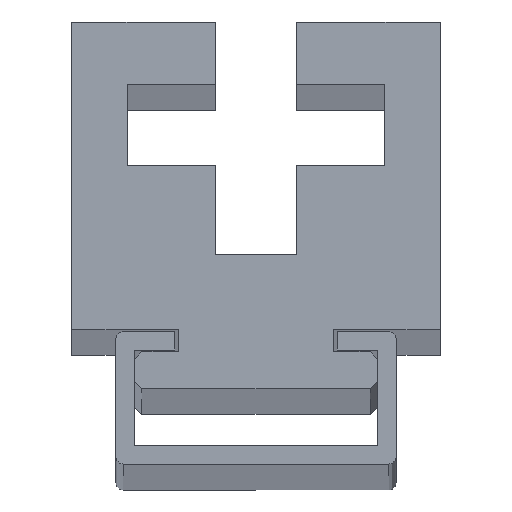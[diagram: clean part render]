
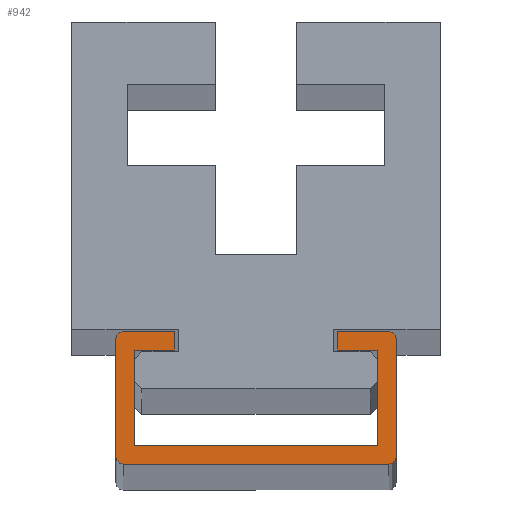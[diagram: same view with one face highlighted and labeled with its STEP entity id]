
A CAD part, top view. The second image highlights one B-rep face of the part: STEP entity #942.
In plain terms, the highlighted planar face has unit normal (0, 0, 1).
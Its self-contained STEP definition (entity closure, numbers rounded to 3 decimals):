
#10 = LINE ( 'NONE', #438, #1068 ) ;
#21 = DIRECTION ( 'NONE',  ( -1., 0., 0. ) ) ;
#32 = VERTEX_POINT ( 'NONE', #759 ) ;
#41 = CARTESIAN_POINT ( 'NONE',  ( -16.5, 15.5, 0. ) ) ;
#63 = VERTEX_POINT ( 'NONE', #1738 ) ;
#103 = VECTOR ( 'NONE', #1812, 1000. ) ;
#107 = DIRECTION ( 'NONE',  ( -1., 0., 0. ) ) ;
#143 = EDGE_CURVE ( 'NONE', #1664, #333, #332, .T. ) ;
#158 = EDGE_CURVE ( 'NONE', #198, #63, #644, .T. ) ;
#166 = CARTESIAN_POINT ( 'NONE',  ( -19., 17., 0. ) ) ;
#191 = LINE ( 'NONE', #916, #334 ) ;
#198 = VERTEX_POINT ( 'NONE', #523 ) ;
#212 = CIRCLE ( 'NONE', #906, 1. ) ;
#242 = LINE ( 'NONE', #1135, #1434 ) ;
#268 = VECTOR ( 'NONE', #107, 1000. ) ;
#300 = VERTEX_POINT ( 'NONE', #1290 ) ;
#332 = LINE ( 'NONE', #504, #103 ) ;
#333 = VERTEX_POINT ( 'NONE', #1618 ) ;
#334 = VECTOR ( 'NONE', #775, 1000. ) ;
#353 = VECTOR ( 'NONE', #21, 1000. ) ;
#369 = LINE ( 'NONE', #1713, #608 ) ;
#374 = CARTESIAN_POINT ( 'NONE',  ( 19., 1., 0. ) ) ;
#408 = VERTEX_POINT ( 'NONE', #1080 ) ;
#424 = ORIENTED_EDGE ( 'NONE', *, *, #1661, .T. ) ;
#438 = CARTESIAN_POINT ( 'NONE',  ( 16.5, 2.5, 0. ) ) ;
#455 = LINE ( 'NONE', #1494, #515 ) ;
#487 = EDGE_CURVE ( 'NONE', #1587, #709, #212, .T. ) ;
#504 = CARTESIAN_POINT ( 'NONE',  ( -11., 18., 0. ) ) ;
#515 = VECTOR ( 'NONE', #1209, 1000. ) ;
#523 = CARTESIAN_POINT ( 'NONE',  ( 18., 0., 0. ) ) ;
#536 = LINE ( 'NONE', #1582, #1046 ) ;
#562 = ORIENTED_EDGE ( 'NONE', *, *, #487, .T. ) ;
#568 = EDGE_CURVE ( 'NONE', #32, #1332, #1583, .T. ) ;
#585 = LINE ( 'NONE', #626, #1412 ) ;
#586 = ORIENTED_EDGE ( 'NONE', *, *, #568, .T. ) ;
#608 = VECTOR ( 'NONE', #669, 1000. ) ;
#611 = ORIENTED_EDGE ( 'NONE', *, *, #158, .T. ) ;
#625 = DIRECTION ( 'NONE',  ( 0., 0., 1. ) ) ;
#626 = CARTESIAN_POINT ( 'NONE',  ( -16.5, 2.5, 0. ) ) ;
#635 = CARTESIAN_POINT ( 'NONE',  ( 18., 1., 0. ) ) ;
#644 = CIRCLE ( 'NONE', #1711, 1. ) ;
#669 = DIRECTION ( 'NONE',  ( 1., 0., 0. ) ) ;
#670 = CARTESIAN_POINT ( 'NONE',  ( -18., 17., 0. ) ) ;
#674 = ORIENTED_EDGE ( 'NONE', *, *, #1282, .T. ) ;
#690 = ORIENTED_EDGE ( 'NONE', *, *, #1566, .T. ) ;
#701 = EDGE_CURVE ( 'NONE', #838, #1041, #585, .T. ) ;
#709 = VERTEX_POINT ( 'NONE', #166 ) ;
#724 = PLANE ( 'NONE',  #898 ) ;
#751 = DIRECTION ( 'NONE',  ( -1., 0., 0. ) ) ;
#759 = CARTESIAN_POINT ( 'NONE',  ( 18., 18., 0. ) ) ;
#771 = CARTESIAN_POINT ( 'NONE',  ( -19., 1., 0. ) ) ;
#775 = DIRECTION ( 'NONE',  ( 1., 0., 0. ) ) ;
#800 = ORIENTED_EDGE ( 'NONE', *, *, #1114, .T. ) ;
#820 = CARTESIAN_POINT ( 'NONE',  ( -18., 18., 0. ) ) ;
#838 = VERTEX_POINT ( 'NONE', #965 ) ;
#864 = DIRECTION ( 'NONE',  ( 0., 0., 1. ) ) ;
#882 = VECTOR ( 'NONE', #1490, 1000. ) ;
#898 = AXIS2_PLACEMENT_3D ( 'NONE', #1585, #864, #1901 ) ;
#906 = AXIS2_PLACEMENT_3D ( 'NONE', #670, #1801, #1793 ) ;
#913 = ORIENTED_EDGE ( 'NONE', *, *, #989, .T. ) ;
#916 = CARTESIAN_POINT ( 'NONE',  ( 16.5, 15.5, 0. ) ) ;
#927 = CARTESIAN_POINT ( 'NONE',  ( 16.5, 2.5, 0. ) ) ;
#929 = CIRCLE ( 'NONE', #956, 1. ) ;
#931 = DIRECTION ( 'NONE',  ( 0., 0., 1. ) ) ;
#942 = ADVANCED_FACE ( 'NONE', ( #994 ), #724, .T. ) ;
#956 = AXIS2_PLACEMENT_3D ( 'NONE', #1527, #625, #1782 ) ;
#957 = VERTEX_POINT ( 'NONE', #1879 ) ;
#965 = CARTESIAN_POINT ( 'NONE',  ( -16.5, 2.5, 0. ) ) ;
#970 = ORIENTED_EDGE ( 'NONE', *, *, #701, .T. ) ;
#989 = EDGE_CURVE ( 'NONE', #1275, #198, #455, .T. ) ;
#991 = CARTESIAN_POINT ( 'NONE',  ( 18., 18., 0. ) ) ;
#994 = FACE_OUTER_BOUND ( 'NONE', #1010, .T. ) ;
#996 = VERTEX_POINT ( 'NONE', #927 ) ;
#1010 = EDGE_LOOP ( 'NONE', ( #1808, #424, #562, #1611, #1447, #913, #611, #690, #1385, #586, #1909, #800, #1249, #1826, #970, #674 ) ) ;
#1027 = CARTESIAN_POINT ( 'NONE',  ( -18., 18., 0. ) ) ;
#1030 = EDGE_CURVE ( 'NONE', #1437, #1275, #929, .T. ) ;
#1033 = DIRECTION ( 'NONE',  ( 0., 1., 0. ) ) ;
#1041 = VERTEX_POINT ( 'NONE', #41 ) ;
#1046 = VECTOR ( 'NONE', #1855, 1000. ) ;
#1068 = VECTOR ( 'NONE', #751, 1000. ) ;
#1080 = CARTESIAN_POINT ( 'NONE',  ( 19., 17., 0. ) ) ;
#1109 = CARTESIAN_POINT ( 'NONE',  ( -18., 0., 0. ) ) ;
#1114 = EDGE_CURVE ( 'NONE', #300, #957, #191, .T. ) ;
#1134 = AXIS2_PLACEMENT_3D ( 'NONE', #1678, #1206, #1236 ) ;
#1135 = CARTESIAN_POINT ( 'NONE',  ( 16.5, 2.5, 0. ) ) ;
#1206 = DIRECTION ( 'NONE',  ( 0., 0., 1. ) ) ;
#1209 = DIRECTION ( 'NONE',  ( 1., 0., 0. ) ) ;
#1236 = DIRECTION ( 'NONE',  ( 1., 0., 0. ) ) ;
#1239 = EDGE_CURVE ( 'NONE', #1332, #300, #536, .T. ) ;
#1249 = ORIENTED_EDGE ( 'NONE', *, *, #1264, .T. ) ;
#1264 = EDGE_CURVE ( 'NONE', #957, #996, #242, .T. ) ;
#1275 = VERTEX_POINT ( 'NONE', #1109 ) ;
#1281 = VECTOR ( 'NONE', #1401, 1000. ) ;
#1282 = EDGE_CURVE ( 'NONE', #1041, #1664, #369, .T. ) ;
#1290 = CARTESIAN_POINT ( 'NONE',  ( 11., 15.5, 0. ) ) ;
#1332 = VERTEX_POINT ( 'NONE', #1457 ) ;
#1367 = EDGE_CURVE ( 'NONE', #709, #1437, #1589, .T. ) ;
#1385 = ORIENTED_EDGE ( 'NONE', *, *, #1510, .T. ) ;
#1389 = DIRECTION ( 'NONE',  ( 1., 0., 0. ) ) ;
#1401 = DIRECTION ( 'NONE',  ( 0., 1., 0. ) ) ;
#1412 = VECTOR ( 'NONE', #1033, 1000. ) ;
#1428 = DIRECTION ( 'NONE',  ( 0., -1., 0. ) ) ;
#1434 = VECTOR ( 'NONE', #1428, 1000. ) ;
#1437 = VERTEX_POINT ( 'NONE', #771 ) ;
#1447 = ORIENTED_EDGE ( 'NONE', *, *, #1030, .T. ) ;
#1457 = CARTESIAN_POINT ( 'NONE',  ( 11., 18., 0. ) ) ;
#1490 = DIRECTION ( 'NONE',  ( 0., -1., 0. ) ) ;
#1494 = CARTESIAN_POINT ( 'NONE',  ( 18., 0., 0. ) ) ;
#1510 = EDGE_CURVE ( 'NONE', #408, #32, #1765, .T. ) ;
#1527 = CARTESIAN_POINT ( 'NONE',  ( -18., 1., 0. ) ) ;
#1566 = EDGE_CURVE ( 'NONE', #63, #408, #1833, .T. ) ;
#1582 = CARTESIAN_POINT ( 'NONE',  ( 11., 18., 0. ) ) ;
#1583 = LINE ( 'NONE', #991, #268 ) ;
#1585 = CARTESIAN_POINT ( 'NONE',  ( 18., 17., 0. ) ) ;
#1587 = VERTEX_POINT ( 'NONE', #820 ) ;
#1589 = LINE ( 'NONE', #1616, #882 ) ;
#1611 = ORIENTED_EDGE ( 'NONE', *, *, #1367, .T. ) ;
#1616 = CARTESIAN_POINT ( 'NONE',  ( -19., 1., 0. ) ) ;
#1618 = CARTESIAN_POINT ( 'NONE',  ( -11., 18., 0. ) ) ;
#1661 = EDGE_CURVE ( 'NONE', #333, #1587, #1745, .T. ) ;
#1664 = VERTEX_POINT ( 'NONE', #1787 ) ;
#1671 = EDGE_CURVE ( 'NONE', #996, #838, #10, .T. ) ;
#1678 = CARTESIAN_POINT ( 'NONE',  ( 18., 17., 0. ) ) ;
#1711 = AXIS2_PLACEMENT_3D ( 'NONE', #635, #931, #1389 ) ;
#1713 = CARTESIAN_POINT ( 'NONE',  ( -16.5, 15.5, 0. ) ) ;
#1738 = CARTESIAN_POINT ( 'NONE',  ( 19., 1., 0. ) ) ;
#1745 = LINE ( 'NONE', #1027, #353 ) ;
#1765 = CIRCLE ( 'NONE', #1134, 1. ) ;
#1782 = DIRECTION ( 'NONE',  ( 1., 0., 0. ) ) ;
#1787 = CARTESIAN_POINT ( 'NONE',  ( -11., 15.5, 0. ) ) ;
#1793 = DIRECTION ( 'NONE',  ( 1., 0., 0. ) ) ;
#1801 = DIRECTION ( 'NONE',  ( 0., 0., 1. ) ) ;
#1808 = ORIENTED_EDGE ( 'NONE', *, *, #143, .T. ) ;
#1812 = DIRECTION ( 'NONE',  ( 0., 1., 0. ) ) ;
#1826 = ORIENTED_EDGE ( 'NONE', *, *, #1671, .T. ) ;
#1833 = LINE ( 'NONE', #374, #1281 ) ;
#1855 = DIRECTION ( 'NONE',  ( 0., -1., 0. ) ) ;
#1879 = CARTESIAN_POINT ( 'NONE',  ( 16.5, 15.5, 0. ) ) ;
#1901 = DIRECTION ( 'NONE',  ( 1., 0., 0. ) ) ;
#1909 = ORIENTED_EDGE ( 'NONE', *, *, #1239, .T. ) ;
